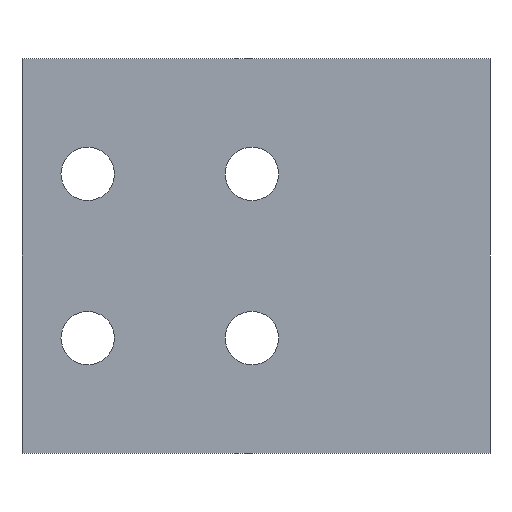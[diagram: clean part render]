
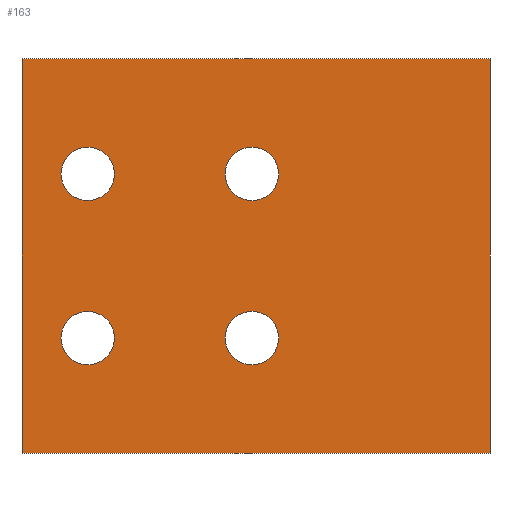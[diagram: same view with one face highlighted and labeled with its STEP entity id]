
A CAD part, front view. The second image highlights one B-rep face of the part: STEP entity #163.
In plain terms, the highlighted planar face has unit normal (0, -1, 0).
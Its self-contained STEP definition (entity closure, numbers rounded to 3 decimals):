
#101 = EDGE_CURVE( '', #219, #125, #267, .T. );
#103 = EDGE_CURVE( '', #201, #151, #269, .T. );
#105 = EDGE_CURVE( '', #223, #189, #271, .T. );
#107 = EDGE_CURVE( '', #223, #219, #273, .T. );
#109 = VERTEX_POINT( '', #275 );
#121 = EDGE_CURVE( '', #109, #193, #289, .T. );
#125 = VERTEX_POINT( '', #293 );
#129 = EDGE_CURVE( '', #139, #229, #297, .T. );
#133 = EDGE_CURVE( '', #229, #139, #302, .T. );
#139 = VERTEX_POINT( '', #309 );
#147 = EDGE_CURVE( '', #211, #245, #318, .T. );
#151 = VERTEX_POINT( '', #323 );
#163 = ADVANCED_FACE( '', ( #335, #336, #337, #338, #339 ), #340, .T. );
#165 = EDGE_CURVE( '', #189, #125, #342, .T. );
#181 = EDGE_CURVE( '', #193, #109, #364, .T. );
#189 = VERTEX_POINT( '', #372 );
#193 = VERTEX_POINT( '', #376 );
#195 = EDGE_CURVE( '', #245, #211, #378, .T. );
#201 = VERTEX_POINT( '', #384 );
#211 = VERTEX_POINT( '', #396 );
#219 = VERTEX_POINT( '', #405 );
#223 = VERTEX_POINT( '', #409 );
#229 = VERTEX_POINT( '', #416 );
#245 = VERTEX_POINT( '', #433 );
#247 = EDGE_CURVE( '', #151, #201, #435, .T. );
#267 = LINE( '', #447, #448 );
#269 = CIRCLE( '', #451, 3.25 );
#271 = LINE( '', #454, #455 );
#273 = LINE( '', #458, #459 );
#275 = CARTESIAN_POINT( '', ( -17.25, 0., -10. ) );
#289 = CIRCLE( '', #480, 3.25 );
#293 = CARTESIAN_POINT( '', ( -28.5, 0., -24. ) );
#297 = CIRCLE( '', #490, 3.25 );
#302 = CIRCLE( '', #496, 3.25 );
#309 = CARTESIAN_POINT( '', ( -17.25, 0., 10. ) );
#318 = CIRCLE( '', #516, 3.25 );
#323 = CARTESIAN_POINT( '', ( -3.75, 0., -10. ) );
#335 = FACE_BOUND( '', #537, .T. );
#336 = FACE_BOUND( '', #538, .T. );
#337 = FACE_BOUND( '', #539, .T. );
#338 = FACE_BOUND( '', #540, .T. );
#339 = FACE_OUTER_BOUND( '', #541, .T. );
#340 = PLANE( '', #542 );
#342 = LINE( '', #545, #546 );
#364 = CIRCLE( '', #576, 3.25 );
#372 = CARTESIAN_POINT( '', ( 28.5, 0., -24. ) );
#376 = CARTESIAN_POINT( '', ( -23.75, 0., -10. ) );
#378 = CIRCLE( '', #593, 3.25 );
#384 = CARTESIAN_POINT( '', ( 2.75, 0., -10. ) );
#396 = CARTESIAN_POINT( '', ( 2.75, 0., 10. ) );
#405 = CARTESIAN_POINT( '', ( -28.5, 0., 24. ) );
#409 = CARTESIAN_POINT( '', ( 28.5, 0., 24. ) );
#416 = CARTESIAN_POINT( '', ( -23.75, 0., 10. ) );
#433 = CARTESIAN_POINT( '', ( -3.75, 0., 10. ) );
#435 = CIRCLE( '', #668, 3.25 );
#447 = CARTESIAN_POINT( '', ( -28.5, 0., 24. ) );
#448 = VECTOR( '', #673, 1. );
#451 = AXIS2_PLACEMENT_3D( '', #674, #675, #676 );
#454 = CARTESIAN_POINT( '', ( 28.5, 0., 24. ) );
#455 = VECTOR( '', #677, 1. );
#458 = CARTESIAN_POINT( '', ( 28.5, 0., 24. ) );
#459 = VECTOR( '', #678, 1. );
#480 = AXIS2_PLACEMENT_3D( '', #697, #698, #699 );
#490 = AXIS2_PLACEMENT_3D( '', #703, #704, #705 );
#496 = AXIS2_PLACEMENT_3D( '', #714, #715, #716 );
#516 = AXIS2_PLACEMENT_3D( '', #737, #738, #739 );
#537 = EDGE_LOOP( '', ( #755, #756 ) );
#538 = EDGE_LOOP( '', ( #757, #758 ) );
#539 = EDGE_LOOP( '', ( #759, #760 ) );
#540 = EDGE_LOOP( '', ( #761, #762 ) );
#541 = EDGE_LOOP( '', ( #763, #764, #765, #766 ) );
#542 = AXIS2_PLACEMENT_3D( '', #767, #768, #769 );
#545 = CARTESIAN_POINT( '', ( 28.5, 0., -24. ) );
#546 = VECTOR( '', #770, 1. );
#576 = AXIS2_PLACEMENT_3D( '', #801, #802, #803 );
#593 = AXIS2_PLACEMENT_3D( '', #805, #806, #807 );
#668 = AXIS2_PLACEMENT_3D( '', #864, #865, #866 );
#673 = DIRECTION( '', ( 0., 0., -1. ) );
#674 = CARTESIAN_POINT( '', ( -0.5, 0., -10. ) );
#675 = DIRECTION( '', ( 0., 1., 0. ) );
#676 = DIRECTION( '', ( -1., 0., 0. ) );
#677 = DIRECTION( '', ( 0., 0., -1. ) );
#678 = DIRECTION( '', ( -1., 0., 0. ) );
#697 = CARTESIAN_POINT( '', ( -20.5, 0., -10. ) );
#698 = DIRECTION( '', ( 0., 1., 0. ) );
#699 = DIRECTION( '', ( -1., 0., 0. ) );
#703 = CARTESIAN_POINT( '', ( -20.5, 0., 10. ) );
#704 = DIRECTION( '', ( 0., 1., 0. ) );
#705 = DIRECTION( '', ( -1., 0., 0. ) );
#714 = CARTESIAN_POINT( '', ( -20.5, 0., 10. ) );
#715 = DIRECTION( '', ( 0., 1., 0. ) );
#716 = DIRECTION( '', ( -1., 0., 0. ) );
#737 = CARTESIAN_POINT( '', ( -0.5, 0., 10. ) );
#738 = DIRECTION( '', ( 0., 1., 0. ) );
#739 = DIRECTION( '', ( -1., 0., 0. ) );
#755 = ORIENTED_EDGE( '', *, *, #147, .T. );
#756 = ORIENTED_EDGE( '', *, *, #195, .T. );
#757 = ORIENTED_EDGE( '', *, *, #129, .T. );
#758 = ORIENTED_EDGE( '', *, *, #133, .T. );
#759 = ORIENTED_EDGE( '', *, *, #103, .T. );
#760 = ORIENTED_EDGE( '', *, *, #247, .T. );
#761 = ORIENTED_EDGE( '', *, *, #121, .T. );
#762 = ORIENTED_EDGE( '', *, *, #181, .T. );
#763 = ORIENTED_EDGE( '', *, *, #101, .T. );
#764 = ORIENTED_EDGE( '', *, *, #165, .F. );
#765 = ORIENTED_EDGE( '', *, *, #105, .F. );
#766 = ORIENTED_EDGE( '', *, *, #107, .T. );
#767 = CARTESIAN_POINT( '', ( 28.5, 0., 24. ) );
#768 = DIRECTION( '', ( 0., -1., 0. ) );
#769 = DIRECTION( '', ( 0., 0., 1. ) );
#770 = DIRECTION( '', ( -1., 0., 0. ) );
#801 = CARTESIAN_POINT( '', ( -20.5, 0., -10. ) );
#802 = DIRECTION( '', ( 0., 1., 0. ) );
#803 = DIRECTION( '', ( -1., 0., 0. ) );
#805 = CARTESIAN_POINT( '', ( -0.5, 0., 10. ) );
#806 = DIRECTION( '', ( 0., 1., 0. ) );
#807 = DIRECTION( '', ( -1., 0., 0. ) );
#864 = CARTESIAN_POINT( '', ( -0.5, 0., -10. ) );
#865 = DIRECTION( '', ( 0., 1., 0. ) );
#866 = DIRECTION( '', ( -1., 0., 0. ) );
